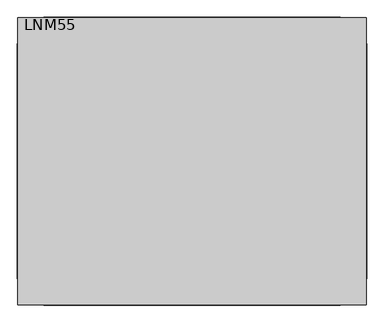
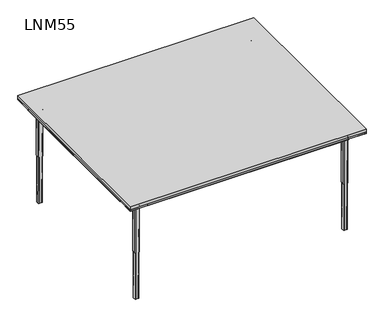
"""IFC4 building model written with IfcOpenShell, lengths in millimetres: furniture geometry, Contact Desks and Operative Twin Desks : LNM55."""

from ifc_helpers import new_model, si_unit, point, frame, origin, place, context, project, spatial, polyline, circle_curve, ellipse_curve, trimmed, outline, extrude, faceted_brep, source, transform, mapped, element, save
from ifc_brep_helpers import plane_surface, cylinder_surface, revolved_surface, extruded_surface, advanced_brep


def lnm55_e12bd296(model_context):
    return source(origin(), model_context, "Body", "SolidModel", [
        extrude(outline(polyline([(800.0, -540.0), (800.0, -660.0), (680.0, -660.0), (680.0, -540.0), (800.0, -540.0)])), frame((0.0, 0.0, 710.0), z_axis=(0.0, 0.0, 1.0), x_axis=(1.0, 0.0, 0.0)), (0.0, 0.0, 1.0), 10.0),
        extrude(outline(polyline([(800.0, 660.0), (800.0, 540.0), (680.0, 540.0), (680.0, 660.0), (800.0, 660.0)])), frame((0.0, 0.0, 710.0), z_axis=(0.0, 0.0, 1.0), x_axis=(1.0, 0.0, 0.0)), (0.0, 0.0, 1.0), 10.0),
        extrude(outline(polyline([(-680.0, 660.0), (-680.0, 540.0), (-800.0, 540.0), (-800.0, 660.0), (-680.0, 660.0)])), frame((0.0, 0.0, 710.0), z_axis=(0.0, 0.0, 1.0), x_axis=(1.0, 0.0, 0.0)), (0.0, 0.0, 1.0), 10.0),
        extrude(outline(polyline([(-800.0, 540.0), (-680.0, 540.0), (-680.0, -540.0), (-800.0, -540.0), (-800.0, 540.0)])), frame((0.0, 0.0, 710.0), z_axis=(0.0, 0.0, 1.0), x_axis=(1.0, 0.0, 0.0)), (0.0, 0.0, 1.0), 10.0),
        extrude(outline(polyline([(680.0, 540.0), (800.0, 540.0), (800.0, -540.0), (680.0, -540.0), (680.0, 540.0)])), frame((0.0, 0.0, 710.0), z_axis=(0.0, 0.0, 1.0), x_axis=(1.0, 0.0, 0.0)), (0.0, 0.0, 1.0), 10.0),
        extrude(outline(polyline([(680.0, -540.0), (680.0, -660.0), (-680.0, -660.0), (-680.0, -540.0), (680.0, -540.0)])), frame((0.0, 0.0, 710.0), z_axis=(0.0, 0.0, 1.0), x_axis=(1.0, 0.0, 0.0)), (0.0, 0.0, 1.0), 10.0),
        extrude(outline(polyline([(680.0, 660.0), (680.0, 540.0), (-680.0, 540.0), (-680.0, 660.0), (680.0, 660.0)])), frame((0.0, 0.0, 710.0), z_axis=(0.0, 0.0, 1.0), x_axis=(1.0, 0.0, 0.0)), (0.0, 0.0, 1.0), 10.0),
        extrude(outline(polyline([(710.0, 680.0), (675.0, 680.0), (675.0, 728.7129935), (710.0, 801.7129935), (710.0, 680.0)])), frame((0.0, -540.0, 0.0), z_axis=(0.0, 1.0, 0.0), x_axis=(0.0, 0.0, 1.0)), (0.0, 0.0, 1.0), 1080.0),
        extrude(outline(polyline([(710.0, -680.0), (710.0, -801.7129935), (675.0, -728.7129935), (675.0, -680.0), (710.0, -680.0)])), frame((0.0, -540.0, 0.0), z_axis=(0.0, 1.0, 0.0), x_axis=(0.0, 0.0, 1.0)), (0.0, 0.0, 1.0), 1080.0),
        extrude(outline(polyline([(540.0, 710.0), (661.7129935, 710.0), (588.7129935, 675.0), (540.0, 675.0), (540.0, 710.0)])), frame((-680.0, 0.0, 0.0), z_axis=(1.0, 0.0, 0.0), x_axis=(0.0, 1.0, 0.0)), (0.0, 0.0, 1.0), 1360.0),
        extrude(outline(polyline([(-540.0, 710.0), (-540.0, 675.0), (-588.7129935, 675.0), (-661.7129935, 710.0), (-540.0, 710.0)])), frame((-680.0, 0.0, 0.0), z_axis=(1.0, 0.0, 0.0), x_axis=(0.0, 1.0, 0.0)), (0.0, 0.0, 1.0), 1360.0),
        faceted_brep([(-680.0, 540.0, 710.0), (-680.0, 660.0, 710.0), (-800.0, 660.0, 710.0), (-800.0, 540.0, 710.0), (-680.0, 540.0, 675.0), (-727.0, 540.0, 675.0), (-727.0, 587.0, 675.0), (-680.0, 587.0, 675.0)], [[[0, 1, 2, 3]], [[4, 5, 6, 7]], [[1, 0, 4, 7]], [[0, 3, 5, 4]], [[6, 2, 1, 7]], [[2, 6, 5, 3]]]),
        advanced_brep(
        [(-687.0, 555.0, 675.0), (-687.0, 579.0, 675.0), (-695.0, 587.0, 675.0), (-719.0, 587.0, 675.0), (-727.0, 579.0, 675.0), (-727.0, 555.0, 675.0), (-719.0, 547.0, 675.0), (-695.0, 547.0, 675.0), (-719.0, 552.0, 665.0), (-722.0, 555.0, 665.0), (-722.0, 579.0, 665.0), (-719.0, 582.0, 665.0), (-695.0, 582.0, 665.0), (-692.0, 579.0, 665.0), (-692.0, 555.0, 665.0), (-695.0, 552.0, 665.0), (-687.0, 555.0, 672.0), (-687.0, 579.0, 672.0), (-695.0, 587.0, 672.0), (-719.0, 587.0, 672.0), (-727.0, 579.0, 672.0), (-727.0, 555.0, 672.0), (-719.0, 547.0, 672.0), (-695.0, 547.0, 672.0)],
        [
            (0, 1),
            (1, 2, circle_curve(frame((-695.0, 579.0, 675.0), z_axis=(0.0, 0.0, 1.0), x_axis=(0.0, -1.0000000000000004, 0.0)), 8.0)),
            (2, 3),
            (3, 4, circle_curve(frame((-719.0, 579.0, 675.0), z_axis=(0.0, 0.0, 1.0), x_axis=(0.0, -1.0000000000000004, 0.0)), 8.0)),
            (4, 5),
            (5, 6, circle_curve(frame((-719.0, 555.0, 675.0), z_axis=(0.0, 0.0, 1.0), x_axis=(0.0, -1.0000000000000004, 0.0)), 8.0)),
            (6, 7),
            (7, 0, circle_curve(frame((-695.0, 555.0, 675.0), z_axis=(0.0, 0.0, 1.0), x_axis=(0.0, -1.0000000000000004, 0.0)), 8.0)),
            (8, 9, circle_curve(frame((-719.0, 555.0, 665.0), z_axis=(0.0, 0.0, -1.0), x_axis=(0.0, -1.0000000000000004, 0.0)), 3.0)),
            (9, 10),
            (10, 11, circle_curve(frame((-719.0, 579.0, 665.0), z_axis=(0.0, 0.0, -1.0), x_axis=(-1.0000000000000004, 0.0, 0.0)), 3.0)),
            (11, 12),
            (12, 13, circle_curve(frame((-695.0, 579.0, 665.0), z_axis=(0.0, 0.0, -1.0), x_axis=(0.0, 1.0000000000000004, 0.0)), 3.0)),
            (13, 14),
            (14, 15, circle_curve(frame((-695.0, 555.0, 665.0), z_axis=(0.0, 0.0, -1.0), x_axis=(1.0000000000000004, 0.0, 0.0)), 3.0)),
            (15, 8),
            (0, 16),
            (16, 17),
            (17, 1),
            (17, 18, circle_curve(frame((-695.0, 579.0, 672.0), z_axis=(0.0, 0.0, 1.0), x_axis=(0.0, -1.0000000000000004, 0.0)), 8.0)),
            (18, 2),
            (18, 19),
            (19, 3),
            (19, 20, circle_curve(frame((-719.0, 579.0, 672.0), z_axis=(0.0, 0.0, 1.0), x_axis=(0.0, -1.0000000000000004, 0.0)), 8.0)),
            (20, 4),
            (20, 21),
            (21, 5),
            (21, 22, circle_curve(frame((-719.0, 555.0, 672.0), z_axis=(0.0, 0.0, 1.0), x_axis=(0.0, -1.0000000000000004, 0.0)), 8.0)),
            (22, 6),
            (22, 23),
            (23, 7),
            (23, 16, circle_curve(frame((-695.0, 555.0, 672.0), z_axis=(0.0, 0.0, 1.0), x_axis=(0.0, -1.0000000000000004, 0.0)), 8.0)),
            (21, 9, circle_curve(frame((-730.9600528, 555.0, 663.8856766), z_axis=(0.0, 1.0000000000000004, 0.0), x_axis=(-1.0000000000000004, 0.0, 0.0)), 9.0290787)),
            (8, 22, circle_curve(frame((-719.0, 543.0399472, 663.8856766), z_axis=(1.0000000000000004, 0.0, 0.0), x_axis=(0.0, -1.0000000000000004, 0.0)), 9.0290787)),
            (20, 10, circle_curve(frame((-730.9600528, 579.0, 663.8856766), z_axis=(0.0, 1.0, 0.0), x_axis=(-1.0000000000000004, 0.0, 0.0)), 9.0290787)),
            (19, 11, circle_curve(frame((-719.0, 590.9600528, 663.8856766), z_axis=(1.0000000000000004, 0.0, 0.0), x_axis=(0.0, 1.0000000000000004, 0.0)), 9.0290787)),
            (18, 12, circle_curve(frame((-695.0, 590.9600528, 663.8856766), z_axis=(1.0, 0.0, 0.0), x_axis=(0.0, 1.0000000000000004, 0.0)), 9.0290787)),
            (17, 13, circle_curve(frame((-683.0399472, 579.0, 663.8856766), z_axis=(0.0, -1.0000000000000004, 0.0), x_axis=(1.0000000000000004, 0.0, 0.0)), 9.0290787)),
            (16, 14, circle_curve(frame((-683.0399472, 555.0, 663.8856766), z_axis=(0.0, -1.0, 0.0), x_axis=(1.0000000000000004, 0.0, 0.0)), 9.0290787)),
            (23, 15, circle_curve(frame((-695.0, 543.0399472, 663.8856766), z_axis=(-1.0000000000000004, 0.0, 0.0), x_axis=(0.0, -1.0000000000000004, 0.0)), 9.0290787)),
        ],
        [
            plane_surface(frame((-687.0, 1240.663284, 675.0), z_axis=(0.0, 0.0, 1.0), x_axis=(0.0, 1.0, 0.0))),
            plane_surface(frame((-687.0, 1240.663284, 665.0), z_axis=(0.0, 0.0, -1.0), x_axis=(0.0, -1.0, 0.0))),
            plane_surface(frame((-687.0, 555.0, 675.0), z_axis=(1.0, 0.0, 0.0), x_axis=(0.0, 0.0, -1.0))),
            cylinder_surface(frame((-695.0, 579.0, 665.0), z_axis=(0.0, 0.0, 1.0), x_axis=(0.0, -1.0000000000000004, 0.0)), 8.0),
            plane_surface(frame((-695.0, 587.0, 675.0), z_axis=(0.0, 1.0, 0.0), x_axis=(0.0, 0.0, -1.0))),
            cylinder_surface(frame((-719.0, 579.0, 665.0), z_axis=(0.0, 0.0, 1.0), x_axis=(0.0, -1.0000000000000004, 0.0)), 8.0),
            plane_surface(frame((-727.0, 579.0, 675.0), z_axis=(-1.0, 0.0, 0.0), x_axis=(0.0, 0.0, -1.0))),
            cylinder_surface(frame((-719.0, 555.0, 665.0), z_axis=(0.0, 0.0, 1.0), x_axis=(0.0, -1.0000000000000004, 0.0)), 8.0),
            plane_surface(frame((-719.0, 547.0, 675.0), z_axis=(0.0, -1.0, 0.0), x_axis=(0.0, 0.0, -1.0))),
            cylinder_surface(frame((-695.0, 555.0, 665.0), z_axis=(0.0, 0.0, 1.0), x_axis=(0.0, -1.0000000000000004, 0.0)), 8.0),
            revolved_surface(trimmed(ellipse_curve(frame((-719.0, 543.0399472, 663.8856766), z_axis=(-1.0000000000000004, 0.0, 0.0), x_axis=(0.0, -1.0000000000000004, 0.0)), 9.0290787, 9.0290787), [point((-719.0, 547.0, 672.0))], [point((-719.0, 552.0, 665.0))], True, "CARTESIAN"), (-719.0, 555.0, 0.0), (0.0, 0.0, -1.0)),
            revolved_surface(polyline([(-739.9891315, 555.0, 663.8856766), (-739.9891315, 579.0, 663.8856766)]), (-730.9600528, 555.0, 663.8856766), (0.0, -1.0000000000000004, 0.0)),
            revolved_surface(trimmed(ellipse_curve(frame((-730.9600528, 579.0, 663.8856766), z_axis=(0.0, 1.0000000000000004, 0.0), x_axis=(-1.0000000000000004, 0.0, 0.0)), 9.0290787, 9.0290787), [point((-727.0, 579.0, 672.0))], [point((-722.0, 579.0, 665.0))], True, "CARTESIAN"), (-719.0, 579.0, 0.0), (0.0, 0.0, -1.0)),
            revolved_surface(polyline([(-719.0, 599.9891315, 663.8856766), (-695.0, 599.9891315, 663.8856766)]), (-719.0, 590.9600528, 663.8856766), (-1.0000000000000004, 0.0, 0.0)),
            revolved_surface(trimmed(ellipse_curve(frame((-695.0, 590.9600528, 663.8856766), z_axis=(1.0000000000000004, 0.0, 0.0), x_axis=(0.0, 1.0000000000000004, 0.0)), 9.0290787, 9.0290787), [point((-695.0, 587.0, 672.0))], [point((-695.0, 582.0, 665.0))], True, "CARTESIAN"), (-695.0, 579.0, 0.0), (0.0, 0.0, -1.0)),
            revolved_surface(polyline([(-674.0108685, 579.0, 663.8856766), (-674.0108685, 555.0, 663.8856766)]), (-683.0399472, 579.0, 663.8856766), (0.0, 1.0000000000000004, 0.0)),
            revolved_surface(trimmed(ellipse_curve(frame((-683.0399472, 555.0, 663.8856766), z_axis=(0.0, -1.0000000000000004, 0.0), x_axis=(1.0000000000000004, 0.0, 0.0)), 9.0290787, 9.0290787), [point((-687.0, 555.0, 672.0))], [point((-692.0, 555.0, 665.0))], True, "CARTESIAN"), (-695.0, 555.0, 0.0), (0.0, 0.0, -1.0)),
            revolved_surface(polyline([(-695.0, 534.0108685, 663.8856766), (-719.0, 534.0108685, 663.8856766)]), (-695.0, 543.0399472, 663.8856766), (1.0000000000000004, 0.0, 0.0)),
        ],
        [
            (0, [[1, 2, 3, 4, 5, 6, 7, 8]]),
            (1, [[9, 10, 11, 12, 13, 14, 15, 16]]),
            (2, [[-1, 17, 18, 19]]),
            (3, [[-2, -19, 20, 21]]),
            (4, [[-3, -21, 22, 23]]),
            (5, [[-4, -23, 24, 25]]),
            (6, [[-5, -25, 26, 27]]),
            (7, [[-6, -27, 28, 29]]),
            (8, [[-7, -29, 30, 31]]),
            (9, [[-8, -31, 32, -17]]),
            (10, [[33, -9, 34, -28]]),
            (11, [[-33, -26, 35, -10]]),
            (12, [[-35, -24, 36, -11]]),
            (13, [[-36, -22, 37, -12]]),
            (14, [[-37, -20, 38, -13]]),
            (15, [[-38, -18, 39, -14]]),
            (16, [[-39, -32, 40, -15]]),
            (17, [[-34, -16, -40, -30]]),
        ],
    ),
        advanced_brep(
        [(-719.0, 582.0, 665.0), (-722.0, 579.0, 665.0), (-722.0, 555.0, 665.0), (-719.0, 552.0, 665.0), (-695.0, 552.0, 665.0), (-692.0, 555.0, 665.0), (-692.0, 579.0, 665.0), (-695.0, 582.0, 665.0), (-716.0, 579.0, 0.0), (-698.0, 579.0, 0.0), (-695.0, 576.0, 0.0), (-695.0, 558.0, 0.0), (-698.0, 555.0, 0.0), (-716.0, 555.0, 0.0), (-719.0, 558.0, 0.0), (-719.0, 576.0, 0.0)],
        [
            (0, 1, circle_curve(frame((-719.0, 579.0, 665.0), z_axis=(0.0, 0.0, 1.0), x_axis=(0.0, -1.0, 0.0)), 3.0)),
            (1, 2),
            (2, 3, circle_curve(frame((-719.0, 555.0, 665.0), z_axis=(0.0, 0.0, 1.0), x_axis=(0.0, -1.0, 0.0)), 3.0)),
            (3, 4),
            (4, 5, circle_curve(frame((-695.0, 555.0, 665.0), z_axis=(0.0, 0.0, 1.0), x_axis=(0.0, -1.0, 0.0)), 3.0)),
            (5, 6),
            (6, 7, circle_curve(frame((-695.0, 579.0, 665.0), z_axis=(0.0, 0.0, 1.0), x_axis=(0.0, -1.0, 0.0)), 3.0)),
            (7, 0),
            (8, 9),
            (9, 10, circle_curve(frame((-698.0, 576.0, 0.0), z_axis=(0.0, 0.0, -1.0), x_axis=(0.0, -1.0, 0.0)), 3.0)),
            (10, 11),
            (11, 12, circle_curve(frame((-698.0, 558.0, 0.0), z_axis=(0.0, 0.0, -1.0), x_axis=(0.0, -1.0, 0.0)), 3.0)),
            (12, 13),
            (13, 14, circle_curve(frame((-716.0, 558.0, 0.0), z_axis=(0.0, 0.0, -1.0), x_axis=(0.0, -1.0, 0.0)), 3.0)),
            (14, 15),
            (15, 8, circle_curve(frame((-716.0, 576.0, 0.0), z_axis=(0.0, 0.0, -1.0), x_axis=(0.0, -1.0, 0.0)), 3.0)),
            (15, 1),
            (0, 8),
            (14, 2),
            (13, 3),
            (12, 4),
            (11, 5),
            (10, 6),
            (9, 7),
        ],
        [
            plane_surface(frame((-707.0, 567.0, 665.0), z_axis=(0.0, 0.0, 1.0), x_axis=(0.0, 1.0, 0.0))),
            plane_surface(frame((-707.0, 567.0, 0.0), z_axis=(0.0, 0.0, -1.0), x_axis=(0.0, 1.0, 0.0))),
            extruded_surface(trimmed(circle_curve(frame((-716.0, 576.0, 0.0), z_axis=(0.0, 0.0, 1.0), x_axis=(0.0, -1.0, 0.0)), 3.0), [point((-716.0, 579.0, 0.0))], [point((-719.0, 576.0, 0.0))], True, "CARTESIAN"), (-3.0, 3.0, 665.0), 665.0135336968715),
            plane_surface(frame((-719.0, 567.0, 0.0), z_axis=(-0.9999898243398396, 0.0, -0.004511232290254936), x_axis=(0.0, -1.0, 0.0))),
            extruded_surface(trimmed(circle_curve(frame((-716.0, 558.0, 0.0), z_axis=(0.0, 0.0, 1.0), x_axis=(0.0, -1.0, 0.0)), 3.0), [point((-719.0, 558.0, 0.0))], [point((-716.0, 555.0, 0.0))], True, "CARTESIAN"), (-3.0, -3.0, 665.0), 665.0135336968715),
            plane_surface(frame((-707.0, 555.0, 0.0), z_axis=(0.0, -0.9999898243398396, -0.004511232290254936), x_axis=(1.0, 0.0, 0.0))),
            extruded_surface(trimmed(circle_curve(frame((-698.0, 558.0, 0.0), z_axis=(0.0, 0.0, 1.0), x_axis=(0.0, -1.0, 0.0)), 3.0), [point((-698.0, 555.0, 0.0))], [point((-695.0, 558.0, 0.0))], True, "CARTESIAN"), (3.0, -3.0, 665.0), 665.0135336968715),
            plane_surface(frame((-695.0, 567.0, 0.0), z_axis=(0.9999898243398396, 0.0, -0.004511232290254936), x_axis=(0.0, 1.0, 0.0))),
            extruded_surface(trimmed(circle_curve(frame((-698.0, 576.0, 0.0), z_axis=(0.0, 0.0, 1.0), x_axis=(0.0, -1.0, 0.0)), 3.0), [point((-695.0, 576.0, 0.0))], [point((-698.0, 579.0, 0.0))], True, "CARTESIAN"), (3.0, 3.0, 665.0), 665.0135336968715),
            plane_surface(frame((-707.0, 579.0, 0.0), z_axis=(0.0, 0.9999898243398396, -0.004511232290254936), x_axis=(-1.0, 0.0, 0.0))),
        ],
        [
            (0, [[1, 2, 3, 4, 5, 6, 7, 8]]),
            (1, [[9, 10, 11, 12, 13, 14, 15, 16]]),
            (2, [[-16, 17, -1, 18]]),
            (3, [[-15, 19, -2, -17]]),
            (4, [[-14, 20, -3, -19]]),
            (5, [[-13, 21, -4, -20]]),
            (6, [[-12, 22, -5, -21]]),
            (7, [[-11, 23, -6, -22]]),
            (8, [[-10, 24, -7, -23]]),
            (9, [[-9, -18, -8, -24]]),
        ],
    ),
        faceted_brep([(680.0, -540.0, 710.0), (680.0, -660.0, 710.0), (800.0, -660.0, 710.0), (800.0, -540.0, 710.0), (680.0, -540.0, 675.0), (727.0, -540.0, 675.0), (727.0, -587.0, 675.0), (680.0, -587.0, 675.0)], [[[0, 1, 2, 3]], [[4, 5, 6, 7]], [[1, 0, 4, 7]], [[0, 3, 5, 4]], [[6, 2, 1, 7]], [[2, 6, 5, 3]]]),
        advanced_brep(
        [(687.0, -555.0, 675.0), (687.0, -579.0, 675.0), (695.0, -587.0, 675.0), (719.0, -587.0, 675.0), (727.0, -579.0, 675.0), (727.0, -555.0, 675.0), (719.0, -547.0, 675.0), (695.0, -547.0, 675.0), (719.0, -552.0, 665.0), (722.0, -555.0, 665.0), (722.0, -579.0, 665.0), (719.0, -582.0, 665.0), (695.0, -582.0, 665.0), (692.0, -579.0, 665.0), (692.0, -555.0, 665.0), (695.0, -552.0, 665.0), (687.0, -555.0, 672.0), (687.0, -579.0, 672.0), (695.0, -587.0, 672.0), (719.0, -587.0, 672.0), (727.0, -579.0, 672.0), (727.0, -555.0, 672.0), (719.0, -547.0, 672.0), (695.0, -547.0, 672.0)],
        [
            (0, 1),
            (1, 2, circle_curve(frame((695.0, -579.0, 675.0), z_axis=(0.0, 0.0, 1.0), x_axis=(0.0, 1.0000000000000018, 0.0)), 8.0)),
            (2, 3),
            (3, 4, circle_curve(frame((719.0, -579.0, 675.0), z_axis=(0.0, 0.0, 1.0), x_axis=(0.0, 1.0000000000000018, 0.0)), 8.0)),
            (4, 5),
            (5, 6, circle_curve(frame((719.0, -555.0, 675.0), z_axis=(0.0, 0.0, 1.0), x_axis=(0.0, 1.0000000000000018, 0.0)), 8.0)),
            (6, 7),
            (7, 0, circle_curve(frame((695.0, -555.0, 675.0), z_axis=(0.0, 0.0, 1.0), x_axis=(0.0, 1.0000000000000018, 0.0)), 8.0)),
            (8, 9, circle_curve(frame((719.0, -555.0, 665.0), z_axis=(0.0, 0.0, -1.0), x_axis=(0.0, 1.0000000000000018, 0.0)), 3.0)),
            (9, 10),
            (10, 11, circle_curve(frame((719.0, -579.0, 665.0), z_axis=(0.0, 0.0, -1.0), x_axis=(1.0000000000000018, 0.0, 0.0)), 3.0)),
            (11, 12),
            (12, 13, circle_curve(frame((695.0, -579.0, 665.0), z_axis=(0.0, 0.0, -1.0), x_axis=(0.0, -1.0000000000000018, 0.0)), 3.0)),
            (13, 14),
            (14, 15, circle_curve(frame((695.0, -555.0, 665.0), z_axis=(0.0, 0.0, -1.0), x_axis=(-1.0000000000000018, 0.0, 0.0)), 3.0)),
            (15, 8),
            (0, 16),
            (16, 17),
            (17, 1),
            (17, 18, circle_curve(frame((695.0, -579.0, 672.0), z_axis=(0.0, 0.0, 1.0), x_axis=(0.0, 1.0000000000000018, 0.0)), 8.0)),
            (18, 2),
            (18, 19),
            (19, 3),
            (19, 20, circle_curve(frame((719.0, -579.0, 672.0), z_axis=(0.0, 0.0, 1.0), x_axis=(0.0, 1.0000000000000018, 0.0)), 8.0)),
            (20, 4),
            (20, 21),
            (21, 5),
            (21, 22, circle_curve(frame((719.0, -555.0, 672.0), z_axis=(0.0, 0.0, 1.0), x_axis=(0.0, 1.0000000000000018, 0.0)), 8.0)),
            (22, 6),
            (22, 23),
            (23, 7),
            (23, 16, circle_curve(frame((695.0, -555.0, 672.0), z_axis=(0.0, 0.0, 1.0), x_axis=(0.0, 1.0000000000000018, 0.0)), 8.0)),
            (21, 9, circle_curve(frame((730.9600528, -555.0, 663.8856766), z_axis=(0.0, -1.0000000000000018, 0.0), x_axis=(1.0000000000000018, 0.0, 0.0)), 9.0290787)),
            (8, 22, circle_curve(frame((719.0, -543.0399472, 663.8856766), z_axis=(-1.0000000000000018, 0.0, 0.0), x_axis=(0.0, 1.0000000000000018, 0.0)), 9.0290787)),
            (20, 10, circle_curve(frame((730.9600528, -579.0, 663.8856766), z_axis=(0.0, -1.0, 0.0), x_axis=(1.0000000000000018, 0.0, 0.0)), 9.0290787)),
            (19, 11, circle_curve(frame((719.0, -590.9600528, 663.8856766), z_axis=(-1.0000000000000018, 0.0, 0.0), x_axis=(0.0, -1.0000000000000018, 0.0)), 9.0290787)),
            (18, 12, circle_curve(frame((695.0, -590.9600528, 663.8856766), z_axis=(-1.0, 0.0, 0.0), x_axis=(0.0, -1.0000000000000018, 0.0)), 9.0290787)),
            (17, 13, circle_curve(frame((683.0399472, -579.0, 663.8856766), z_axis=(0.0, 1.0000000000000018, 0.0), x_axis=(-1.0000000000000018, 0.0, 0.0)), 9.0290787)),
            (16, 14, circle_curve(frame((683.0399472, -555.0, 663.8856766), z_axis=(0.0, 1.0, 0.0), x_axis=(-1.0000000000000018, 0.0, 0.0)), 9.0290787)),
            (23, 15, circle_curve(frame((695.0, -543.0399472, 663.8856766), z_axis=(1.0000000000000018, 0.0, 0.0), x_axis=(0.0, 1.0000000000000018, 0.0)), 9.0290787)),
        ],
        [
            plane_surface(frame((687.0, -1240.663284, 675.0), z_axis=(0.0, 0.0, 1.0), x_axis=(0.0, -1.0, 0.0))),
            plane_surface(frame((687.0, -1240.663284, 665.0), z_axis=(0.0, 0.0, -1.0), x_axis=(0.0, 1.0, 0.0))),
            plane_surface(frame((687.0, -555.0, 675.0), z_axis=(-1.0, 0.0, 0.0), x_axis=(0.0, 0.0, -1.0))),
            cylinder_surface(frame((695.0, -579.0, 665.0), z_axis=(0.0, 0.0, 1.0), x_axis=(0.0, 1.0000000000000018, 0.0)), 8.0),
            plane_surface(frame((695.0, -587.0, 675.0), z_axis=(0.0, -1.0, 0.0), x_axis=(0.0, 0.0, -1.0))),
            cylinder_surface(frame((719.0, -579.0, 665.0), z_axis=(0.0, 0.0, 1.0), x_axis=(0.0, 1.0000000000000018, 0.0)), 8.0),
            plane_surface(frame((727.0, -579.0, 675.0), z_axis=(1.0, 0.0, 0.0), x_axis=(0.0, 0.0, -1.0))),
            cylinder_surface(frame((719.0, -555.0, 665.0), z_axis=(0.0, 0.0, 1.0), x_axis=(0.0, 1.0000000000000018, 0.0)), 8.0),
            plane_surface(frame((719.0, -547.0, 675.0), z_axis=(0.0, 1.0, 0.0), x_axis=(0.0, 0.0, -1.0))),
            cylinder_surface(frame((695.0, -555.0, 665.0), z_axis=(0.0, 0.0, 1.0), x_axis=(0.0, 1.0000000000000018, 0.0)), 8.0),
            revolved_surface(trimmed(ellipse_curve(frame((719.0, -543.0399472, 663.8856766), z_axis=(1.0000000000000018, 0.0, 0.0), x_axis=(0.0, 1.0000000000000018, 0.0)), 9.0290787, 9.0290787), [point((719.0, -547.0, 672.0))], [point((719.0, -552.0, 665.0))], True, "CARTESIAN"), (719.0, -555.0, 0.0), (0.0, 0.0, -1.0)),
            revolved_surface(polyline([(739.9891315, -555.0, 663.8856766), (739.9891315, -579.0000000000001, 663.8856766)]), (730.9600528, -555.0, 663.8856766), (0.0, 1.0000000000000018, 0.0)),
            revolved_surface(trimmed(ellipse_curve(frame((730.9600528, -579.0, 663.8856766), z_axis=(0.0, -1.0000000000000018, 0.0), x_axis=(1.0000000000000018, 0.0, 0.0)), 9.0290787, 9.0290787), [point((727.0, -579.0, 672.0))], [point((722.0, -579.0, 665.0))], True, "CARTESIAN"), (719.0, -579.0, 0.0), (0.0, 0.0, -1.0)),
            revolved_surface(polyline([(719.0, -599.9891315, 663.8856766), (694.9999999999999, -599.9891315, 663.8856766)]), (719.0, -590.9600528, 663.8856766), (1.0000000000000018, 0.0, 0.0)),
            revolved_surface(trimmed(ellipse_curve(frame((695.0, -590.9600528, 663.8856766), z_axis=(-1.0000000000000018, 0.0, 0.0), x_axis=(0.0, -1.0000000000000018, 0.0)), 9.0290787, 9.0290787), [point((695.0, -587.0, 672.0))], [point((695.0, -582.0, 665.0))], True, "CARTESIAN"), (695.0, -579.0, 0.0), (0.0, 0.0, -1.0)),
            revolved_surface(polyline([(674.0108685, -579.0, 663.8856766), (674.0108685, -554.9999999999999, 663.8856766)]), (683.0399472, -579.0, 663.8856766), (0.0, -1.0000000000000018, 0.0)),
            revolved_surface(trimmed(ellipse_curve(frame((683.0399472, -555.0, 663.8856766), z_axis=(0.0, 1.0000000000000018, 0.0), x_axis=(-1.0000000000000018, 0.0, 0.0)), 9.0290787, 9.0290787), [point((687.0, -555.0, 672.0))], [point((692.0, -555.0, 665.0))], True, "CARTESIAN"), (695.0, -555.0, 0.0), (0.0, 0.0, -1.0)),
            revolved_surface(polyline([(695.0, -534.0108685, 663.8856766), (719.0000000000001, -534.0108685, 663.8856766)]), (695.0, -543.0399472, 663.8856766), (-1.0000000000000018, 0.0, 0.0)),
        ],
        [
            (0, [[1, 2, 3, 4, 5, 6, 7, 8]]),
            (1, [[9, 10, 11, 12, 13, 14, 15, 16]]),
            (2, [[-1, 17, 18, 19]]),
            (3, [[-2, -19, 20, 21]]),
            (4, [[-3, -21, 22, 23]]),
            (5, [[-4, -23, 24, 25]]),
            (6, [[-5, -25, 26, 27]]),
            (7, [[-6, -27, 28, 29]]),
            (8, [[-7, -29, 30, 31]]),
            (9, [[-8, -31, 32, -17]]),
            (10, [[33, -9, 34, -28]]),
            (11, [[-33, -26, 35, -10]]),
            (12, [[-35, -24, 36, -11]]),
            (13, [[-36, -22, 37, -12]]),
            (14, [[-37, -20, 38, -13]]),
            (15, [[-38, -18, 39, -14]]),
            (16, [[-39, -32, 40, -15]]),
            (17, [[-34, -16, -40, -30]]),
        ],
    ),
        advanced_brep(
        [(719.0, -582.0, 665.0), (722.0, -579.0, 665.0), (722.0, -555.0, 665.0), (719.0, -552.0, 665.0), (695.0, -552.0, 665.0), (692.0, -555.0, 665.0), (692.0, -579.0, 665.0), (695.0, -582.0, 665.0), (716.0, -579.0, 0.0), (698.0, -579.0, 0.0), (695.0, -576.0, 0.0), (695.0, -558.0, 0.0), (698.0, -555.0, 0.0), (716.0, -555.0, 0.0), (719.0, -558.0, 0.0), (719.0, -576.0, 0.0)],
        [
            (0, 1, circle_curve(frame((719.0, -579.0, 665.0), z_axis=(0.0, 0.0, 1.0), x_axis=(0.0, 1.0, 0.0)), 3.0)),
            (1, 2),
            (2, 3, circle_curve(frame((719.0, -555.0, 665.0), z_axis=(0.0, 0.0, 1.0), x_axis=(0.0, 1.0, 0.0)), 3.0)),
            (3, 4),
            (4, 5, circle_curve(frame((695.0, -555.0, 665.0), z_axis=(0.0, 0.0, 1.0), x_axis=(0.0, 1.0, 0.0)), 3.0)),
            (5, 6),
            (6, 7, circle_curve(frame((695.0, -579.0, 665.0), z_axis=(0.0, 0.0, 1.0), x_axis=(0.0, 1.0, 0.0)), 3.0)),
            (7, 0),
            (8, 9),
            (9, 10, circle_curve(frame((698.0, -576.0, 0.0), z_axis=(0.0, 0.0, -1.0), x_axis=(0.0, 1.0, 0.0)), 3.0)),
            (10, 11),
            (11, 12, circle_curve(frame((698.0, -558.0, 0.0), z_axis=(0.0, 0.0, -1.0), x_axis=(0.0, 1.0, 0.0)), 3.0)),
            (12, 13),
            (13, 14, circle_curve(frame((716.0, -558.0, 0.0), z_axis=(0.0, 0.0, -1.0), x_axis=(0.0, 1.0, 0.0)), 3.0)),
            (14, 15),
            (15, 8, circle_curve(frame((716.0, -576.0, 0.0), z_axis=(0.0, 0.0, -1.0), x_axis=(0.0, 1.0, 0.0)), 3.0)),
            (15, 1),
            (0, 8),
            (14, 2),
            (13, 3),
            (12, 4),
            (11, 5),
            (10, 6),
            (9, 7),
        ],
        [
            plane_surface(frame((707.0, -567.0, 665.0), z_axis=(0.0, 0.0, 1.0), x_axis=(0.0, -1.0, 0.0))),
            plane_surface(frame((707.0, -567.0, 0.0), z_axis=(0.0, 0.0, -1.0), x_axis=(0.0, -1.0, 0.0))),
            extruded_surface(trimmed(circle_curve(frame((716.0, -576.0, 0.0), z_axis=(0.0, 0.0, 1.0), x_axis=(0.0, 1.0, 0.0)), 3.0), [point((716.0, -579.0, 0.0))], [point((719.0, -576.0, 0.0))], True, "CARTESIAN"), (3.0, -3.0, 665.0), 665.0135336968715),
            plane_surface(frame((719.0, -567.0, 0.0), z_axis=(0.9999898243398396, 0.0, -0.004511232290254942), x_axis=(0.0, 1.0, 0.0))),
            extruded_surface(trimmed(circle_curve(frame((716.0, -558.0, 0.0), z_axis=(0.0, 0.0, 1.0), x_axis=(0.0, 1.0, 0.0)), 3.0), [point((719.0, -558.0, 0.0))], [point((716.0, -555.0, 0.0))], True, "CARTESIAN"), (3.0, 3.0, 665.0), 665.0135336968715),
            plane_surface(frame((707.0, -555.0, 0.0), z_axis=(0.0, 0.9999898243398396, -0.004511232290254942), x_axis=(-1.0, 0.0, 0.0))),
            extruded_surface(trimmed(circle_curve(frame((698.0, -558.0, 0.0), z_axis=(0.0, 0.0, 1.0), x_axis=(0.0, 1.0, 0.0)), 3.0), [point((698.0, -555.0, 0.0))], [point((695.0, -558.0, 0.0))], True, "CARTESIAN"), (-3.0, 3.0, 665.0), 665.0135336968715),
            plane_surface(frame((695.0, -567.0, 0.0), z_axis=(-0.9999898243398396, 0.0, -0.004511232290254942), x_axis=(0.0, -1.0, 0.0))),
            extruded_surface(trimmed(circle_curve(frame((698.0, -576.0, 0.0), z_axis=(0.0, 0.0, 1.0), x_axis=(0.0, 1.0, 0.0)), 3.0), [point((695.0, -576.0, 0.0))], [point((698.0, -579.0, 0.0))], True, "CARTESIAN"), (-3.0, -3.0, 665.0), 665.0135336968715),
            plane_surface(frame((707.0, -579.0, 0.0), z_axis=(0.0, -0.9999898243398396, -0.004511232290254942), x_axis=(1.0, 0.0, 0.0))),
        ],
        [
            (0, [[1, 2, 3, 4, 5, 6, 7, 8]]),
            (1, [[9, 10, 11, 12, 13, 14, 15, 16]]),
            (2, [[-16, 17, -1, 18]]),
            (3, [[-15, 19, -2, -17]]),
            (4, [[-14, 20, -3, -19]]),
            (5, [[-13, 21, -4, -20]]),
            (6, [[-12, 22, -5, -21]]),
            (7, [[-11, 23, -6, -22]]),
            (8, [[-10, 24, -7, -23]]),
            (9, [[-9, -18, -8, -24]]),
        ],
    ),
        faceted_brep([(680.0, 540.0, 710.0), (800.0, 540.0, 710.0), (800.0, 660.0, 710.0), (680.0, 660.0, 710.0), (680.0, 540.0, 675.0), (680.0, 587.0, 675.0), (727.0, 587.0, 675.0), (727.0, 540.0, 675.0)], [[[0, 1, 2, 3]], [[4, 5, 6, 7]], [[1, 0, 4, 7]], [[0, 3, 5, 4]], [[6, 2, 1, 7]], [[2, 6, 5, 3]]]),
        advanced_brep(
        [(695.0, 547.0, 675.0), (719.0, 547.0, 675.0), (727.0, 555.0, 675.0), (727.0, 579.0, 675.0), (719.0, 587.0, 675.0), (695.0, 587.0, 675.0), (687.0, 579.0, 675.0), (687.0, 555.0, 675.0), (692.0, 579.0, 665.0), (695.0, 582.0, 665.0), (719.0, 582.0, 665.0), (722.0, 579.0, 665.0), (722.0, 555.0, 665.0), (719.0, 552.0, 665.0), (695.0, 552.0, 665.0), (692.0, 555.0, 665.0), (695.0, 547.0, 672.0), (719.0, 547.0, 672.0), (727.0, 555.0, 672.0), (727.0, 579.0, 672.0), (719.0, 587.0, 672.0), (695.0, 587.0, 672.0), (687.0, 579.0, 672.0), (687.0, 555.0, 672.0)],
        [
            (0, 1),
            (1, 2, circle_curve(frame((719.0, 555.0, 675.0), z_axis=(0.0, 0.0, 1.0), x_axis=(-1.0000000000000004, 0.0, 0.0)), 8.0)),
            (2, 3),
            (3, 4, circle_curve(frame((719.0, 579.0, 675.0), z_axis=(0.0, 0.0, 1.0), x_axis=(-1.0000000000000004, 0.0, 0.0)), 8.0)),
            (4, 5),
            (5, 6, circle_curve(frame((695.0, 579.0, 675.0), z_axis=(0.0, 0.0, 1.0), x_axis=(-1.0000000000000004, 0.0, 0.0)), 8.0)),
            (6, 7),
            (7, 0, circle_curve(frame((695.0, 555.0, 675.0), z_axis=(0.0, 0.0, 1.0), x_axis=(-1.0000000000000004, 0.0, 0.0)), 8.0)),
            (8, 9, circle_curve(frame((695.0, 579.0, 665.0), z_axis=(0.0, 0.0, -1.0), x_axis=(-1.0000000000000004, 0.0, 0.0)), 3.0)),
            (9, 10),
            (10, 11, circle_curve(frame((719.0, 579.0, 665.0), z_axis=(0.0, 0.0, -1.0), x_axis=(0.0, 1.0000000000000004, 0.0)), 3.0)),
            (11, 12),
            (12, 13, circle_curve(frame((719.0, 555.0, 665.0), z_axis=(0.0, 0.0, -1.0), x_axis=(1.0000000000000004, 0.0, 0.0)), 3.0)),
            (13, 14),
            (14, 15, circle_curve(frame((695.0, 555.0, 665.0), z_axis=(0.0, 0.0, -1.0), x_axis=(0.0, -1.0000000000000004, 0.0)), 3.0)),
            (15, 8),
            (0, 16),
            (16, 17),
            (17, 1),
            (17, 18, circle_curve(frame((719.0, 555.0, 672.0), z_axis=(0.0, 0.0, 1.0), x_axis=(-1.0000000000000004, 0.0, 0.0)), 8.0)),
            (18, 2),
            (18, 19),
            (19, 3),
            (19, 20, circle_curve(frame((719.0, 579.0, 672.0), z_axis=(0.0, 0.0, 1.0), x_axis=(-1.0000000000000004, 0.0, 0.0)), 8.0)),
            (20, 4),
            (20, 21),
            (21, 5),
            (21, 22, circle_curve(frame((695.0, 579.0, 672.0), z_axis=(0.0, 0.0, 1.0), x_axis=(-1.0000000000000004, 0.0, 0.0)), 8.0)),
            (22, 6),
            (22, 23),
            (23, 7),
            (23, 16, circle_curve(frame((695.0, 555.0, 672.0), z_axis=(0.0, 0.0, 1.0), x_axis=(-1.0000000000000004, 0.0, 0.0)), 8.0)),
            (21, 9, circle_curve(frame((695.0, 590.9600528, 663.8856766), z_axis=(1.0000000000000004, 0.0, 0.0), x_axis=(0.0, 1.0000000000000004, 0.0)), 9.0290787)),
            (8, 22, circle_curve(frame((683.0399472, 579.0, 663.8856766), z_axis=(0.0, -1.0000000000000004, 0.0), x_axis=(-1.0000000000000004, 0.0, 0.0)), 9.0290787)),
            (20, 10, circle_curve(frame((719.0, 590.9600528, 663.8856766), z_axis=(1.0, 0.0, 0.0), x_axis=(0.0, 1.0000000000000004, 0.0)), 9.0290787)),
            (19, 11, circle_curve(frame((730.9600528, 579.0, 663.8856766), z_axis=(0.0, -1.0000000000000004, 0.0), x_axis=(1.0000000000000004, 0.0, 0.0)), 9.0290787)),
            (18, 12, circle_curve(frame((730.9600528, 555.0, 663.8856766), z_axis=(0.0, -1.0, 0.0), x_axis=(1.0000000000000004, 0.0, 0.0)), 9.0290787)),
            (17, 13, circle_curve(frame((719.0, 543.0399472, 663.8856766), z_axis=(-1.0000000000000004, 0.0, 0.0), x_axis=(0.0, -1.0000000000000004, 0.0)), 9.0290787)),
            (16, 14, circle_curve(frame((695.0, 543.0399472, 663.8856766), z_axis=(-1.0, 0.0, 0.0), x_axis=(0.0, -1.0000000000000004, 0.0)), 9.0290787)),
            (23, 15, circle_curve(frame((683.0399472, 555.0, 663.8856766), z_axis=(0.0, 1.0000000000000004, 0.0), x_axis=(-1.0000000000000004, 0.0, 0.0)), 9.0290787)),
        ],
        [
            plane_surface(frame((1380.663284, 547.0, 675.0), z_axis=(0.0, 0.0, 1.0), x_axis=(1.0, 0.0, 0.0))),
            plane_surface(frame((1380.663284, 547.0, 665.0), z_axis=(0.0, 0.0, -1.0), x_axis=(-1.0, 0.0, 0.0))),
            plane_surface(frame((695.0, 547.0, 675.0), z_axis=(0.0, -1.0, 0.0), x_axis=(0.0, 0.0, -1.0))),
            cylinder_surface(frame((719.0, 555.0, 665.0), z_axis=(0.0, 0.0, 1.0), x_axis=(-1.0000000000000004, 0.0, 0.0)), 8.0),
            plane_surface(frame((727.0, 555.0, 675.0), z_axis=(1.0, 0.0, 0.0), x_axis=(0.0, 0.0, -1.0))),
            cylinder_surface(frame((719.0, 579.0, 665.0), z_axis=(0.0, 0.0, 1.0), x_axis=(-1.0000000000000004, 0.0, 0.0)), 8.0),
            plane_surface(frame((719.0, 587.0, 675.0), z_axis=(0.0, 1.0, 0.0), x_axis=(0.0, 0.0, -1.0))),
            cylinder_surface(frame((695.0, 579.0, 665.0), z_axis=(0.0, 0.0, 1.0), x_axis=(-1.0000000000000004, 0.0, 0.0)), 8.0),
            plane_surface(frame((687.0, 579.0, 675.0), z_axis=(-1.0, 0.0, 0.0), x_axis=(0.0, 0.0, -1.0))),
            cylinder_surface(frame((695.0, 555.0, 665.0), z_axis=(0.0, 0.0, 1.0), x_axis=(-1.0000000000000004, 0.0, 0.0)), 8.0),
            revolved_surface(trimmed(ellipse_curve(frame((683.0399472, 579.0, 663.8856766), z_axis=(0.0, 1.0000000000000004, 0.0), x_axis=(-1.0000000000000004, 0.0, 0.0)), 9.0290787, 9.0290787), [point((687.0, 579.0, 672.0))], [point((692.0, 579.0, 665.0))], True, "CARTESIAN"), (695.0, 579.0, 0.0), (0.0, 0.0, -1.0)),
            revolved_surface(polyline([(695.0, 599.9891315, 663.8856766), (719.0, 599.9891315, 663.8856766)]), (695.0, 590.9600528, 663.8856766), (-1.0000000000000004, 0.0, 0.0)),
            revolved_surface(trimmed(ellipse_curve(frame((719.0, 590.9600528, 663.8856766), z_axis=(1.0000000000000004, 0.0, 0.0), x_axis=(0.0, 1.0000000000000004, 0.0)), 9.0290787, 9.0290787), [point((719.0, 587.0, 672.0))], [point((719.0, 582.0, 665.0))], True, "CARTESIAN"), (719.0, 579.0, 0.0), (0.0, 0.0, -1.0)),
            revolved_surface(polyline([(739.9891315, 579.0, 663.8856766), (739.9891315, 555.0, 663.8856766)]), (730.9600528, 579.0, 663.8856766), (0.0, 1.0000000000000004, 0.0)),
            revolved_surface(trimmed(ellipse_curve(frame((730.9600528, 555.0, 663.8856766), z_axis=(0.0, -1.0000000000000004, 0.0), x_axis=(1.0000000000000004, 0.0, 0.0)), 9.0290787, 9.0290787), [point((727.0, 555.0, 672.0))], [point((722.0, 555.0, 665.0))], True, "CARTESIAN"), (719.0, 555.0, 0.0), (0.0, 0.0, -1.0)),
            revolved_surface(polyline([(719.0, 534.0108685, 663.8856766), (695.0, 534.0108685, 663.8856766)]), (719.0, 543.0399472, 663.8856766), (1.0000000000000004, 0.0, 0.0)),
            revolved_surface(trimmed(ellipse_curve(frame((695.0, 543.0399472, 663.8856766), z_axis=(-1.0000000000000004, 0.0, 0.0), x_axis=(0.0, -1.0000000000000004, 0.0)), 9.0290787, 9.0290787), [point((695.0, 547.0, 672.0))], [point((695.0, 552.0, 665.0))], True, "CARTESIAN"), (695.0, 555.0, 0.0), (0.0, 0.0, -1.0)),
            revolved_surface(polyline([(674.0108685, 555.0, 663.8856766), (674.0108685, 579.0, 663.8856766)]), (683.0399472, 555.0, 663.8856766), (0.0, -1.0000000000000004, 0.0)),
        ],
        [
            (0, [[1, 2, 3, 4, 5, 6, 7, 8]]),
            (1, [[9, 10, 11, 12, 13, 14, 15, 16]]),
            (2, [[-1, 17, 18, 19]]),
            (3, [[-2, -19, 20, 21]]),
            (4, [[-3, -21, 22, 23]]),
            (5, [[-4, -23, 24, 25]]),
            (6, [[-5, -25, 26, 27]]),
            (7, [[-6, -27, 28, 29]]),
            (8, [[-7, -29, 30, 31]]),
            (9, [[-8, -31, 32, -17]]),
            (10, [[33, -9, 34, -28]]),
            (11, [[-33, -26, 35, -10]]),
            (12, [[-35, -24, 36, -11]]),
            (13, [[-36, -22, 37, -12]]),
            (14, [[-37, -20, 38, -13]]),
            (15, [[-38, -18, 39, -14]]),
            (16, [[-39, -32, 40, -15]]),
            (17, [[-34, -16, -40, -30]]),
        ],
    ),
        advanced_brep(
        [(722.0, 579.0, 665.0), (719.0, 582.0, 665.0), (695.0, 582.0, 665.0), (692.0, 579.0, 665.0), (692.0, 555.0, 665.0), (695.0, 552.0, 665.0), (719.0, 552.0, 665.0), (722.0, 555.0, 665.0), (719.0, 576.0, 0.0), (719.0, 558.0, 0.0), (716.0, 555.0, 0.0), (698.0, 555.0, 0.0), (695.0, 558.0, 0.0), (695.0, 576.0, 0.0), (698.0, 579.0, 0.0), (716.0, 579.0, 0.0)],
        [
            (0, 1, circle_curve(frame((719.0, 579.0, 665.0), z_axis=(0.0, 0.0, 1.0), x_axis=(-1.0, 0.0, 0.0)), 3.0)),
            (1, 2),
            (2, 3, circle_curve(frame((695.0, 579.0, 665.0), z_axis=(0.0, 0.0, 1.0), x_axis=(-1.0, 0.0, 0.0)), 3.0)),
            (3, 4),
            (4, 5, circle_curve(frame((695.0, 555.0, 665.0), z_axis=(0.0, 0.0, 1.0), x_axis=(-1.0, 0.0, 0.0)), 3.0)),
            (5, 6),
            (6, 7, circle_curve(frame((719.0, 555.0, 665.0), z_axis=(0.0, 0.0, 1.0), x_axis=(-1.0, 0.0, 0.0)), 3.0)),
            (7, 0),
            (8, 9),
            (9, 10, circle_curve(frame((716.0, 558.0, 0.0), z_axis=(0.0, 0.0, -1.0), x_axis=(-1.0, 0.0, 0.0)), 3.0)),
            (10, 11),
            (11, 12, circle_curve(frame((698.0, 558.0, 0.0), z_axis=(0.0, 0.0, -1.0), x_axis=(-1.0, 0.0, 0.0)), 3.0)),
            (12, 13),
            (13, 14, circle_curve(frame((698.0, 576.0, 0.0), z_axis=(0.0, 0.0, -1.0), x_axis=(-1.0, 0.0, 0.0)), 3.0)),
            (14, 15),
            (15, 8, circle_curve(frame((716.0, 576.0, 0.0), z_axis=(0.0, 0.0, -1.0), x_axis=(-1.0, 0.0, 0.0)), 3.0)),
            (15, 1),
            (0, 8),
            (14, 2),
            (13, 3),
            (12, 4),
            (11, 5),
            (10, 6),
            (9, 7),
        ],
        [
            plane_surface(frame((707.0, 567.0, 665.0), z_axis=(0.0, 0.0, 1.0), x_axis=(1.0, 0.0, 0.0))),
            plane_surface(frame((707.0, 567.0, 0.0), z_axis=(0.0, 0.0, -1.0), x_axis=(1.0, 0.0, 0.0))),
            extruded_surface(trimmed(circle_curve(frame((716.0, 576.0, 0.0), z_axis=(0.0, 0.0, 1.0), x_axis=(-1.0, 0.0, 0.0)), 3.0), [point((719.0, 576.0, 0.0))], [point((716.0, 579.0, 0.0))], True, "CARTESIAN"), (3.0, 3.0, 665.0), 665.0135336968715),
            plane_surface(frame((707.0, 579.0, 0.0), z_axis=(0.0, 0.9999898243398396, -0.004511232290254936), x_axis=(-1.0, 0.0, 0.0))),
            extruded_surface(trimmed(circle_curve(frame((698.0, 576.0, 0.0), z_axis=(0.0, 0.0, 1.0), x_axis=(-1.0, 0.0, 0.0)), 3.0), [point((698.0, 579.0, 0.0))], [point((695.0, 576.0, 0.0))], True, "CARTESIAN"), (-3.0, 3.0, 665.0), 665.0135336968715),
            plane_surface(frame((695.0, 567.0, 0.0), z_axis=(-0.9999898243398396, 0.0, -0.004511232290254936), x_axis=(0.0, -1.0, 0.0))),
            extruded_surface(trimmed(circle_curve(frame((698.0, 558.0, 0.0), z_axis=(0.0, 0.0, 1.0), x_axis=(-1.0, 0.0, 0.0)), 3.0), [point((695.0, 558.0, 0.0))], [point((698.0, 555.0, 0.0))], True, "CARTESIAN"), (-3.0, -3.0, 665.0), 665.0135336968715),
            plane_surface(frame((707.0, 555.0, 0.0), z_axis=(0.0, -0.9999898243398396, -0.004511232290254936), x_axis=(1.0, 0.0, 0.0))),
            extruded_surface(trimmed(circle_curve(frame((716.0, 558.0, 0.0), z_axis=(0.0, 0.0, 1.0), x_axis=(-1.0, 0.0, 0.0)), 3.0), [point((716.0, 555.0, 0.0))], [point((719.0, 558.0, 0.0))], True, "CARTESIAN"), (3.0, -3.0, 665.0), 665.0135336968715),
            plane_surface(frame((719.0, 567.0, 0.0), z_axis=(0.9999898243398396, 0.0, -0.004511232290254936), x_axis=(0.0, 1.0, 0.0))),
        ],
        [
            (0, [[1, 2, 3, 4, 5, 6, 7, 8]]),
            (1, [[9, 10, 11, 12, 13, 14, 15, 16]]),
            (2, [[-16, 17, -1, 18]]),
            (3, [[-15, 19, -2, -17]]),
            (4, [[-14, 20, -3, -19]]),
            (5, [[-13, 21, -4, -20]]),
            (6, [[-12, 22, -5, -21]]),
            (7, [[-11, 23, -6, -22]]),
            (8, [[-10, 24, -7, -23]]),
            (9, [[-9, -18, -8, -24]]),
        ],
    ),
        faceted_brep([(-680.0, -540.0, 710.0), (-800.0, -540.0, 710.0), (-800.0, -660.0, 710.0), (-680.0, -660.0, 710.0), (-680.0, -540.0, 675.0), (-680.0, -587.0, 675.0), (-727.0, -587.0, 675.0), (-727.0, -540.0, 675.0)], [[[0, 1, 2, 3]], [[4, 5, 6, 7]], [[1, 0, 4, 7]], [[0, 3, 5, 4]], [[6, 2, 1, 7]], [[2, 6, 5, 3]]]),
        advanced_brep(
        [(-695.0, -547.0, 675.0), (-719.0, -547.0, 675.0), (-727.0, -555.0, 675.0), (-727.0, -579.0, 675.0), (-719.0, -587.0, 675.0), (-695.0, -587.0, 675.0), (-687.0, -579.0, 675.0), (-687.0, -555.0, 675.0), (-692.0, -579.0, 665.0), (-695.0, -582.0, 665.0), (-719.0, -582.0, 665.0), (-722.0, -579.0, 665.0), (-722.0, -555.0, 665.0), (-719.0, -552.0, 665.0), (-695.0, -552.0, 665.0), (-692.0, -555.0, 665.0), (-695.0, -547.0, 672.0), (-719.0, -547.0, 672.0), (-727.0, -555.0, 672.0), (-727.0, -579.0, 672.0), (-719.0, -587.0, 672.0), (-695.0, -587.0, 672.0), (-687.0, -579.0, 672.0), (-687.0, -555.0, 672.0)],
        [
            (0, 1),
            (1, 2, circle_curve(frame((-719.0, -555.0, 675.0), z_axis=(0.0, 0.0, 1.0), x_axis=(1.0, 0.0, 0.0)), 8.0)),
            (2, 3),
            (3, 4, circle_curve(frame((-719.0, -579.0, 675.0), z_axis=(0.0, 0.0, 1.0), x_axis=(1.0, 0.0, 0.0)), 8.0)),
            (4, 5),
            (5, 6, circle_curve(frame((-695.0, -579.0, 675.0), z_axis=(0.0, 0.0, 1.0), x_axis=(1.0, 0.0, 0.0)), 8.0)),
            (6, 7),
            (7, 0, circle_curve(frame((-695.0, -555.0, 675.0), z_axis=(0.0, 0.0, 1.0), x_axis=(1.0, 0.0, 0.0)), 8.0)),
            (8, 9, circle_curve(frame((-695.0, -579.0, 665.0), z_axis=(0.0, 0.0, -1.0), x_axis=(1.0, 0.0, 0.0)), 3.0)),
            (9, 10),
            (10, 11, circle_curve(frame((-719.0, -579.0, 665.0), z_axis=(0.0, 0.0, -1.0), x_axis=(0.0, -1.0, 0.0)), 3.0)),
            (11, 12),
            (12, 13, circle_curve(frame((-719.0, -555.0, 665.0), z_axis=(0.0, 0.0, -1.0), x_axis=(-1.0, 0.0, 0.0)), 3.0)),
            (13, 14),
            (14, 15, circle_curve(frame((-695.0, -555.0, 665.0), z_axis=(0.0, 0.0, -1.0), x_axis=(0.0, 1.0, 0.0)), 3.0)),
            (15, 8),
            (0, 16),
            (16, 17),
            (17, 1),
            (17, 18, circle_curve(frame((-719.0, -555.0, 672.0), z_axis=(0.0, 0.0, 1.0), x_axis=(1.0, 0.0, 0.0)), 8.0)),
            (18, 2),
            (18, 19),
            (19, 3),
            (19, 20, circle_curve(frame((-719.0, -579.0, 672.0), z_axis=(0.0, 0.0, 1.0), x_axis=(1.0, 0.0, 0.0)), 8.0)),
            (20, 4),
            (20, 21),
            (21, 5),
            (21, 22, circle_curve(frame((-695.0, -579.0, 672.0), z_axis=(0.0, 0.0, 1.0), x_axis=(1.0, 0.0, 0.0)), 8.0)),
            (22, 6),
            (22, 23),
            (23, 7),
            (23, 16, circle_curve(frame((-695.0, -555.0, 672.0), z_axis=(0.0, 0.0, 1.0), x_axis=(1.0, 0.0, 0.0)), 8.0)),
            (21, 9, circle_curve(frame((-695.0, -590.9600528, 663.8856766), z_axis=(-1.0, 0.0, 0.0), x_axis=(0.0, -1.0, 0.0)), 9.0290787)),
            (8, 22, circle_curve(frame((-683.0399472, -579.0, 663.8856766), z_axis=(0.0, 1.0, 0.0), x_axis=(1.0, 0.0, 0.0)), 9.0290787)),
            (20, 10, circle_curve(frame((-719.0, -590.9600528, 663.8856766), z_axis=(-1.0, 0.0, 0.0), x_axis=(0.0, -1.0, 0.0)), 9.0290787)),
            (19, 11, circle_curve(frame((-730.9600528, -579.0, 663.8856766), z_axis=(0.0, 1.0, 0.0), x_axis=(-1.0, 0.0, 0.0)), 9.0290787)),
            (18, 12, circle_curve(frame((-730.9600528, -555.0, 663.8856766), z_axis=(0.0, 1.0, 0.0), x_axis=(-1.0, 0.0, 0.0)), 9.0290787)),
            (17, 13, circle_curve(frame((-719.0, -543.0399472, 663.8856766), z_axis=(1.0, 0.0, 0.0), x_axis=(0.0, 1.0, 0.0)), 9.0290787)),
            (16, 14, circle_curve(frame((-695.0, -543.0399472, 663.8856766), z_axis=(1.0, 0.0, 0.0), x_axis=(0.0, 1.0, 0.0)), 9.0290787)),
            (23, 15, circle_curve(frame((-683.0399472, -555.0, 663.8856766), z_axis=(0.0, -1.0, 0.0), x_axis=(1.0, 0.0, 0.0)), 9.0290787)),
        ],
        [
            plane_surface(frame((-1380.663284, -547.0, 675.0), z_axis=(0.0, 0.0, 1.0), x_axis=(-1.0, 0.0, 0.0))),
            plane_surface(frame((-1380.663284, -547.0, 665.0), z_axis=(0.0, 0.0, -1.0), x_axis=(1.0, 0.0, 0.0))),
            plane_surface(frame((-695.0, -547.0, 675.0), z_axis=(0.0, 1.0, 0.0), x_axis=(0.0, 0.0, -1.0))),
            cylinder_surface(frame((-719.0, -555.0, 665.0), z_axis=(0.0, 0.0, 1.0), x_axis=(1.0, 0.0, 0.0)), 8.0),
            plane_surface(frame((-727.0, -555.0, 675.0), z_axis=(-1.0, 0.0, 0.0), x_axis=(0.0, 0.0, -1.0))),
            cylinder_surface(frame((-719.0, -579.0, 665.0), z_axis=(0.0, 0.0, 1.0), x_axis=(1.0, 0.0, 0.0)), 8.0),
            plane_surface(frame((-719.0, -587.0, 675.0), z_axis=(0.0, -1.0, 0.0), x_axis=(0.0, 0.0, -1.0))),
            cylinder_surface(frame((-695.0, -579.0, 665.0), z_axis=(0.0, 0.0, 1.0), x_axis=(1.0, 0.0, 0.0)), 8.0),
            plane_surface(frame((-687.0, -579.0, 675.0), z_axis=(1.0, 0.0, 0.0), x_axis=(0.0, 0.0, -1.0))),
            cylinder_surface(frame((-695.0, -555.0, 665.0), z_axis=(0.0, 0.0, 1.0), x_axis=(1.0, 0.0, 0.0)), 8.0),
            revolved_surface(trimmed(ellipse_curve(frame((-683.0399472, -579.0, 663.8856766), z_axis=(0.0, -1.0, 0.0), x_axis=(1.0, 0.0, 0.0)), 9.0290787, 9.0290787), [point((-687.0, -579.0, 672.0))], [point((-692.0, -579.0, 665.0))], True, "CARTESIAN"), (-695.0, -579.0, 0.0), (0.0, 0.0, -1.0)),
            revolved_surface(polyline([(-695.0, -599.9891315, 663.8856766), (-719.0, -599.9891315, 663.8856766)]), (-695.0, -590.9600528, 663.8856766), (1.0, 0.0, 0.0)),
            revolved_surface(trimmed(ellipse_curve(frame((-719.0, -590.9600528, 663.8856766), z_axis=(-1.0, 0.0, 0.0), x_axis=(0.0, -1.0, 0.0)), 9.0290787, 9.0290787), [point((-719.0, -587.0, 672.0))], [point((-719.0, -582.0, 665.0))], True, "CARTESIAN"), (-719.0, -579.0, 0.0), (0.0, 0.0, -1.0)),
            revolved_surface(polyline([(-739.9891315, -579.0, 663.8856766), (-739.9891315, -555.0, 663.8856766)]), (-730.9600528, -579.0, 663.8856766), (0.0, -1.0, 0.0)),
            revolved_surface(trimmed(ellipse_curve(frame((-730.9600528, -555.0, 663.8856766), z_axis=(0.0, 1.0, 0.0), x_axis=(-1.0, 0.0, 0.0)), 9.0290787, 9.0290787), [point((-727.0, -555.0, 672.0))], [point((-722.0, -555.0, 665.0))], True, "CARTESIAN"), (-719.0, -555.0, 0.0), (0.0, 0.0, -1.0)),
            revolved_surface(polyline([(-719.0, -534.0108685, 663.8856766), (-695.0, -534.0108685, 663.8856766)]), (-719.0, -543.0399472, 663.8856766), (-1.0, 0.0, 0.0)),
            revolved_surface(trimmed(ellipse_curve(frame((-695.0, -543.0399472, 663.8856766), z_axis=(1.0, 0.0, 0.0), x_axis=(0.0, 1.0, 0.0)), 9.0290787, 9.0290787), [point((-695.0, -547.0, 672.0))], [point((-695.0, -552.0, 665.0))], True, "CARTESIAN"), (-695.0, -555.0, 0.0), (0.0, 0.0, -1.0)),
            revolved_surface(polyline([(-674.0108685, -555.0, 663.8856766), (-674.0108685, -579.0, 663.8856766)]), (-683.0399472, -555.0, 663.8856766), (0.0, 1.0, 0.0)),
        ],
        [
            (0, [[1, 2, 3, 4, 5, 6, 7, 8]]),
            (1, [[9, 10, 11, 12, 13, 14, 15, 16]]),
            (2, [[-1, 17, 18, 19]]),
            (3, [[-2, -19, 20, 21]]),
            (4, [[-3, -21, 22, 23]]),
            (5, [[-4, -23, 24, 25]]),
            (6, [[-5, -25, 26, 27]]),
            (7, [[-6, -27, 28, 29]]),
            (8, [[-7, -29, 30, 31]]),
            (9, [[-8, -31, 32, -17]]),
            (10, [[33, -9, 34, -28]]),
            (11, [[-33, -26, 35, -10]]),
            (12, [[-35, -24, 36, -11]]),
            (13, [[-36, -22, 37, -12]]),
            (14, [[-37, -20, 38, -13]]),
            (15, [[-38, -18, 39, -14]]),
            (16, [[-39, -32, 40, -15]]),
            (17, [[-34, -16, -40, -30]]),
        ],
    ),
        advanced_brep(
        [(-722.0, -579.0, 665.0), (-719.0, -582.0, 665.0), (-695.0, -582.0, 665.0), (-692.0, -579.0, 665.0), (-692.0, -555.0, 665.0), (-695.0, -552.0, 665.0), (-719.0, -552.0, 665.0), (-722.0, -555.0, 665.0), (-719.0, -576.0, 0.0), (-719.0, -558.0, 0.0), (-716.0, -555.0, 0.0), (-698.0, -555.0, 0.0), (-695.0, -558.0, 0.0), (-695.0, -576.0, 0.0), (-698.0, -579.0, 0.0), (-716.0, -579.0, 0.0)],
        [
            (0, 1, circle_curve(frame((-719.0, -579.0, 665.0), z_axis=(0.0, 0.0, 1.0), x_axis=(1.0, 0.0, 0.0)), 3.0)),
            (1, 2),
            (2, 3, circle_curve(frame((-695.0, -579.0, 665.0), z_axis=(0.0, 0.0, 1.0), x_axis=(1.0, 0.0, 0.0)), 3.0)),
            (3, 4),
            (4, 5, circle_curve(frame((-695.0, -555.0, 665.0), z_axis=(0.0, 0.0, 1.0), x_axis=(1.0, 0.0, 0.0)), 3.0)),
            (5, 6),
            (6, 7, circle_curve(frame((-719.0, -555.0, 665.0), z_axis=(0.0, 0.0, 1.0), x_axis=(1.0, 0.0, 0.0)), 3.0)),
            (7, 0),
            (8, 9),
            (9, 10, circle_curve(frame((-716.0, -558.0, 0.0), z_axis=(0.0, 0.0, -1.0), x_axis=(1.0, 0.0, 0.0)), 3.0)),
            (10, 11),
            (11, 12, circle_curve(frame((-698.0, -558.0, 0.0), z_axis=(0.0, 0.0, -1.0), x_axis=(1.0, 0.0, 0.0)), 3.0)),
            (12, 13),
            (13, 14, circle_curve(frame((-698.0, -576.0, 0.0), z_axis=(0.0, 0.0, -1.0), x_axis=(1.0, 0.0, 0.0)), 3.0)),
            (14, 15),
            (15, 8, circle_curve(frame((-716.0, -576.0, 0.0), z_axis=(0.0, 0.0, -1.0), x_axis=(1.0, 0.0, 0.0)), 3.0)),
            (15, 1),
            (0, 8),
            (14, 2),
            (13, 3),
            (12, 4),
            (11, 5),
            (10, 6),
            (9, 7),
        ],
        [
            plane_surface(frame((-707.0, -567.0, 665.0), z_axis=(0.0, 0.0, 1.0), x_axis=(-1.0, 0.0, 0.0))),
            plane_surface(frame((-707.0, -567.0, 0.0), z_axis=(0.0, 0.0, -1.0), x_axis=(-1.0, 0.0, 0.0))),
            extruded_surface(trimmed(circle_curve(frame((-716.0, -576.0, 0.0), z_axis=(0.0, 0.0, 1.0), x_axis=(1.0, 0.0, 0.0)), 3.0), [point((-719.0, -576.0, 0.0))], [point((-716.0, -579.0, 0.0))], True, "CARTESIAN"), (-3.0, -3.0, 665.0), 665.0135336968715),
            plane_surface(frame((-707.0, -579.0, 0.0), z_axis=(0.0, -0.9999898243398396, -0.004511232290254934), x_axis=(1.0, 0.0, 0.0))),
            extruded_surface(trimmed(circle_curve(frame((-698.0, -576.0, 0.0), z_axis=(0.0, 0.0, 1.0), x_axis=(1.0, 0.0, 0.0)), 3.0), [point((-698.0, -579.0, 0.0))], [point((-695.0, -576.0, 0.0))], True, "CARTESIAN"), (3.0, -3.0, 665.0), 665.0135336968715),
            plane_surface(frame((-695.0, -567.0, 0.0), z_axis=(0.9999898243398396, 0.0, -0.004511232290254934), x_axis=(0.0, 1.0, 0.0))),
            extruded_surface(trimmed(circle_curve(frame((-698.0, -558.0, 0.0), z_axis=(0.0, 0.0, 1.0), x_axis=(1.0, 0.0, 0.0)), 3.0), [point((-695.0, -558.0, 0.0))], [point((-698.0, -555.0, 0.0))], True, "CARTESIAN"), (3.0, 3.0, 665.0), 665.0135336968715),
            plane_surface(frame((-707.0, -555.0, 0.0), z_axis=(0.0, 0.9999898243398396, -0.004511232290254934), x_axis=(-1.0, 0.0, 0.0))),
            extruded_surface(trimmed(circle_curve(frame((-716.0, -558.0, 0.0), z_axis=(0.0, 0.0, 1.0), x_axis=(1.0, 0.0, 0.0)), 3.0), [point((-716.0, -555.0, 0.0))], [point((-719.0, -558.0, 0.0))], True, "CARTESIAN"), (-3.0, 3.0, 665.0), 665.0135336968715),
            plane_surface(frame((-719.0, -567.0, 0.0), z_axis=(-0.9999898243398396, 0.0, -0.004511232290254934), x_axis=(0.0, -1.0, 0.0))),
        ],
        [
            (0, [[1, 2, 3, 4, 5, 6, 7, 8]]),
            (1, [[9, 10, 11, 12, 13, 14, 15, 16]]),
            (2, [[-16, 17, -1, 18]]),
            (3, [[-15, 19, -2, -17]]),
            (4, [[-14, 20, -3, -19]]),
            (5, [[-13, 21, -4, -20]]),
            (6, [[-12, 22, -5, -21]]),
            (7, [[-11, 23, -6, -22]]),
            (8, [[-10, 24, -7, -23]]),
            (9, [[-9, -18, -8, -24]]),
        ],
    ),
        extrude(outline(polyline([(-680.0, -540.0), (-680.0, -660.0), (-800.0, -660.0), (-800.0, -540.0), (-680.0, -540.0)])), frame((0.0, 0.0, 710.0), z_axis=(0.0, 0.0, 1.0), x_axis=(1.0, 0.0, 0.0)), (0.0, 0.0, 1.0), 10.0),
        extrude(outline(polyline([(800.0, 660.0), (800.0, -660.0), (-800.0, -660.0), (-800.0, 660.0), (800.0, 660.0)])), frame((0.0, 0.0, 720.0), z_axis=(0.0, 0.0, 1.0), x_axis=(1.0, 0.0, 0.0)), (0.0, 0.0, 1.0), 20.0),
    ])


if __name__ == "__main__":
    model = new_model("IFC4")
    model_context = context("Model", 3, world=origin())
    ifc_project = project(units=[si_unit("LENGTHUNIT", "METRE", prefix="MILLI")], contexts=[model_context])
    site = spatial("IfcSite", under=ifc_project)
    building = spatial("IfcBuilding", under=site)
    placement = place(None, origin())
    lnm55_shape = lnm55_e12bd296(model_context)
    element("IfcFurniture", 1, ObjectType="Contact Desks and Operative Twin Desks : LNM55", at=placement, inside=building, context=model_context, shape_type="MappedRepresentation", body=[
        mapped(lnm55_shape, transform((0.0, 0.0, 0.0), x_axis=(1.0, 0.0, 0.0), y_axis=(0.0, 1.0, 0.0), z_axis=(0.0, 0.0, 1.0))),
    ])
    save(model, "model.ifc")
